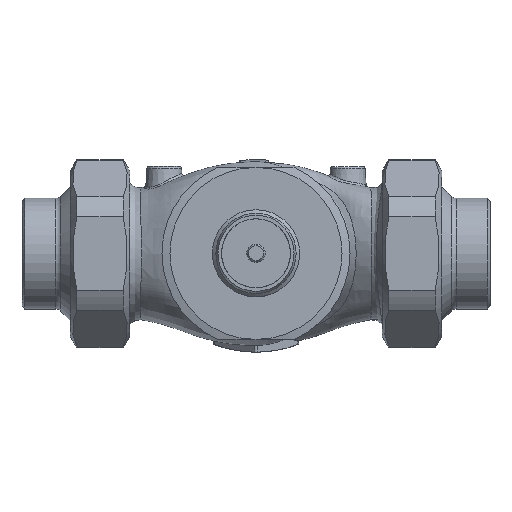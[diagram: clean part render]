
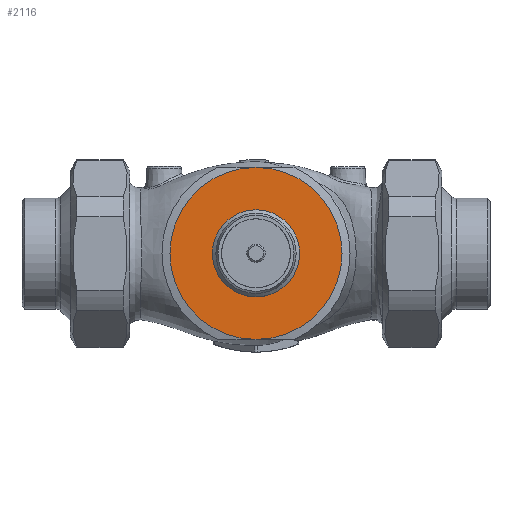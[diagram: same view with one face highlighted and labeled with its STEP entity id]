
A CAD part, top view. The second image highlights one B-rep face of the part: STEP entity #2116.
In plain terms, the highlighted planar face has unit normal (0, 0, 1).
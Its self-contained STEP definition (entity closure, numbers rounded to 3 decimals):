
#1915=PLANE('',#8893);
#2116=ADVANCED_FACE('',(#2908,#2909),#1915,.T.);
#2908=FACE_BOUND('',#3170,.T.);
#2909=FACE_BOUND('',#3171,.T.);
#3170=EDGE_LOOP('',(#3947,#3948));
#3171=EDGE_LOOP('',(#3949));
#3947=ORIENTED_EDGE('',*,*,#7152,.T.);
#3948=ORIENTED_EDGE('',*,*,#7153,.T.);
#3949=ORIENTED_EDGE('',*,*,#7154,.T.);
#6320=VERTEX_POINT('',#20591);
#6321=VERTEX_POINT('',#20592);
#6322=VERTEX_POINT('',#20595);
#7152=EDGE_CURVE('',#6320,#6321,#8343,.T.);
#7153=EDGE_CURVE('',#6321,#6320,#8344,.T.);
#7154=EDGE_CURVE('',#6322,#6322,#8345,.T.);
#8343=CIRCLE('',#8890,37.5);
#8344=CIRCLE('',#8891,37.5);
#8345=CIRCLE('',#8892,19.);
#8890=AXIS2_PLACEMENT_3D('',#20590,#9976,#9977);
#8891=AXIS2_PLACEMENT_3D('',#20593,#9978,#9979);
#8892=AXIS2_PLACEMENT_3D('',#20594,#9980,#9981);
#8893=AXIS2_PLACEMENT_3D('',#20596,#9982,#9983);
#9976=DIRECTION('',(0.,0.,1.));
#9977=DIRECTION('',(-1.,0.,0.));
#9978=DIRECTION('',(0.,0.,1.));
#9979=DIRECTION('',(-1.,0.,0.));
#9980=DIRECTION('',(0.,0.,-1.));
#9981=DIRECTION('',(0.,1.,0.));
#9982=DIRECTION('',(0.,0.,1.));
#9983=DIRECTION('',(-1.,0.,0.));
#20590=CARTESIAN_POINT('',(0.,0.,67.));
#20591=CARTESIAN_POINT('',(0.,37.5,67.));
#20592=CARTESIAN_POINT('',(0.,-37.5,67.));
#20593=CARTESIAN_POINT('',(0.,0.,67.));
#20594=CARTESIAN_POINT('',(0.,0.,67.));
#20595=CARTESIAN_POINT('',(0.,19.,67.));
#20596=CARTESIAN_POINT('',(-25.5,0.,67.));
